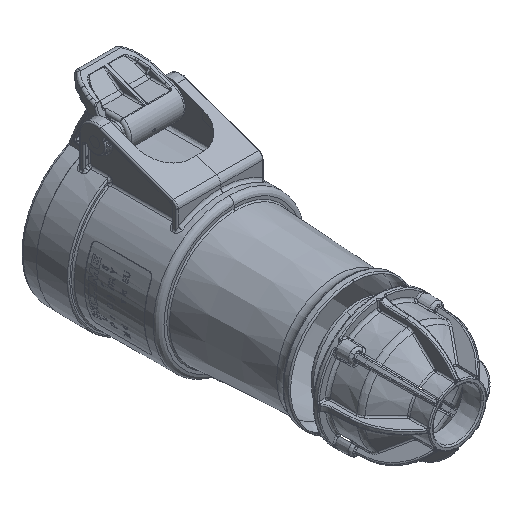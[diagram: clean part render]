
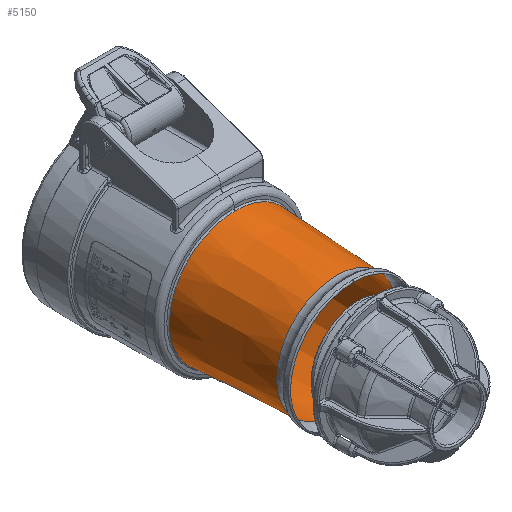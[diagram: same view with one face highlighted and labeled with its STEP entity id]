
A CAD part, isometric view. The second image highlights one B-rep face of the part: STEP entity #5150.
In plain terms, the highlighted conical face has half-angle 3 degrees and reference radius 22.025 mm.
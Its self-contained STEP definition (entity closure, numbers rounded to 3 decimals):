
#627=FACE_BOUND('',#6709,.T.);
#628=FACE_BOUND('',#6710,.T.);
#664=CONICAL_SURFACE('',#17761,22.025,3.);
#5150=ADVANCED_FACE('',(#627,#628),#664,.T.);
#6709=EDGE_LOOP('',(#9321,#9322));
#6710=EDGE_LOOP('',(#9323));
#7472=B_SPLINE_CURVE_WITH_KNOTS('',3,(#23593,#23594,#23595,#23596,#23597,
#23598,#23599,#23600,#23601,#23602,#23603,#23604,#23605,#23606),
 .UNSPECIFIED.,.F.,.F.,(4,2,2,2,2,2,4),(0.,0.25,0.375,0.5,0.625,0.75,1.),
 .UNSPECIFIED.);
#7485=B_SPLINE_CURVE_WITH_KNOTS('',3,(#24303,#24304,#24305,#24306,#24307,
#24308,#24309,#24310,#24311,#24312,#24313,#24314,#24315,#24316),
 .UNSPECIFIED.,.F.,.F.,(4,2,2,2,2,2,4),(0.,0.25,0.375,0.5,0.625,0.75,1.),
 .UNSPECIFIED.);
#9321=ORIENTED_EDGE('',*,*,#14457,.F.);
#9322=ORIENTED_EDGE('',*,*,#14425,.T.);
#9323=ORIENTED_EDGE('',*,*,#14420,.F.);
#12760=VERTEX_POINT('',#23513);
#12762=VERTEX_POINT('',#23592);
#12763=VERTEX_POINT('',#23607);
#14420=EDGE_CURVE('',#12760,#12760,#16519,.T.);
#14425=EDGE_CURVE('',#12763,#12762,#7472,.T.);
#14457=EDGE_CURVE('',#12763,#12762,#7485,.T.);
#16519=CIRCLE('',#17733,22.025);
#17733=AXIS2_PLACEMENT_3D('',#23512,#18847,#18848);
#17761=AXIS2_PLACEMENT_3D('',#24371,#18909,#18910);
#18847=DIRECTION('',(0.,-1.,0.));
#18848=DIRECTION('',(1.,0.,0.));
#18909=DIRECTION('',(0.,1.,0.));
#18910=DIRECTION('',(-1.,0.,0.));
#23512=CARTESIAN_POINT('',(0.,-98.685,0.));
#23513=CARTESIAN_POINT('',(22.025,-98.685,0.));
#23592=CARTESIAN_POINT('',(0.,-61.474,23.975));
#23593=CARTESIAN_POINT('',(0.,-61.474,-23.975));
#23594=CARTESIAN_POINT('',(6.333,-61.417,-23.978));
#23595=CARTESIAN_POINT('',(12.547,-61.362,-21.374));
#23596=CARTESIAN_POINT('',(19.183,-61.303,-14.733));
#23597=CARTESIAN_POINT('',(20.959,-61.287,-12.078));
#23598=CARTESIAN_POINT('',(23.367,-61.266,-6.264));
#23599=CARTESIAN_POINT('',(23.987,-61.26,-3.152));
#23600=CARTESIAN_POINT('',(23.985,-61.26,3.168));
#23601=CARTESIAN_POINT('',(23.36,-61.266,6.283));
#23602=CARTESIAN_POINT('',(20.957,-61.287,12.08));
#23603=CARTESIAN_POINT('',(19.174,-61.303,14.743));
#23604=CARTESIAN_POINT('',(12.545,-61.362,21.372));
#23605=CARTESIAN_POINT('',(6.333,-61.417,23.978));
#23606=CARTESIAN_POINT('',(0.,-61.474,23.975));
#23607=CARTESIAN_POINT('',(0.,-61.474,-23.975));
#24303=CARTESIAN_POINT('',(0.,-61.474,-23.975));
#24304=CARTESIAN_POINT('',(-6.333,-61.417,-23.978));
#24305=CARTESIAN_POINT('',(-12.547,-61.362,-21.374));
#24306=CARTESIAN_POINT('',(-19.183,-61.303,-14.733));
#24307=CARTESIAN_POINT('',(-20.959,-61.287,-12.078));
#24308=CARTESIAN_POINT('',(-23.367,-61.266,-6.264));
#24309=CARTESIAN_POINT('',(-23.987,-61.26,-3.152));
#24310=CARTESIAN_POINT('',(-23.985,-61.26,3.168));
#24311=CARTESIAN_POINT('',(-23.36,-61.266,6.283));
#24312=CARTESIAN_POINT('',(-20.957,-61.287,12.08));
#24313=CARTESIAN_POINT('',(-19.174,-61.303,14.743));
#24314=CARTESIAN_POINT('',(-12.545,-61.362,21.372));
#24315=CARTESIAN_POINT('',(-6.333,-61.417,23.978));
#24316=CARTESIAN_POINT('',(0.,-61.474,23.975));
#24371=CARTESIAN_POINT('',(0.,-98.685,0.));
